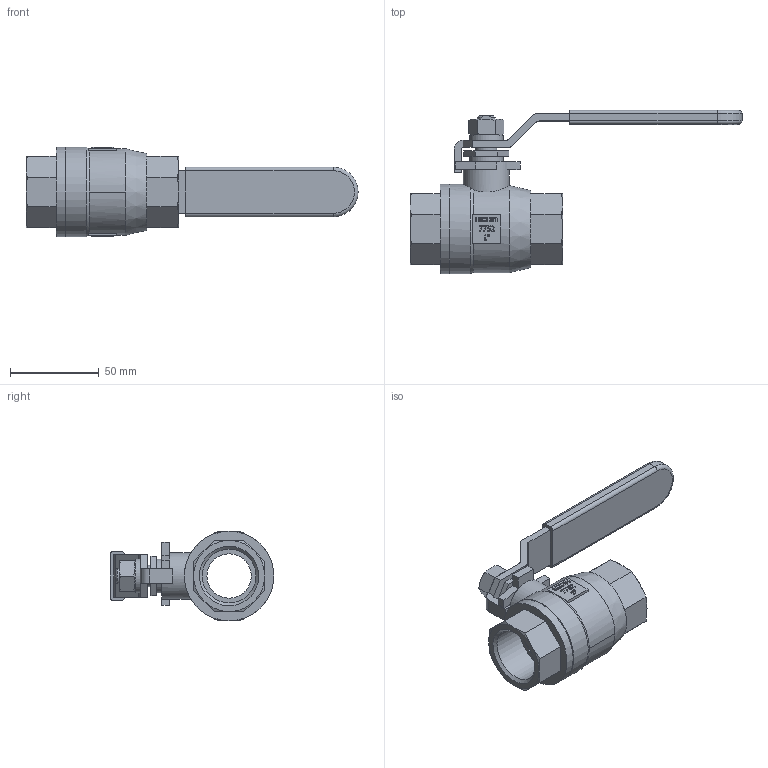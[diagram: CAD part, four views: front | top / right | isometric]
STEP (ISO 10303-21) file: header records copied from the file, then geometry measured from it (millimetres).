
FILE_DESCRIPTION(/* description */ ('Eriks item no: 12427453'),/* implementation_level */ '2;1');
FILE_NAME(/* name */ '7752-DN25-FB-1000PSI-BSPP.stp',/* time_stamp */ '2024-02-16T16:34:04+01:00',/* author */ ('roger.thijssen'),/* organization */ (''),/* preprocessor_version */ 'ST-DEVELOPER v19.2',/* originating_system */ 'Autodesk Inventor 2024',/* authorisation */ '');
FILE_SCHEMA (('AUTOMOTIVE_DESIGN { 1 0 10303 214 3 1 1 }'));
Length unit declared in the file: millimetre
Products named in the file (1): Ball valve, 7752-DN25-FB-1000PSI-BSPP
Bounding box: 187 x 92.2 x 50.5 mm (x, y, z)
Volume: 132184.1 mm3; surface area: 36545.2 mm2
Topology: 1 solids, 1 shells, 1083 faces, 2961 edges, 1957 vertices
Faces by surface type: plane 886, bspline 89, cylinder 70, cone 36, torus 2
Full cylindrical faces by diameter (mm): 8 x1, 12 x1, 19 x2, 25 x1, 26 x1, 30.291 x2, 50.4 x2
Entity records: 35682 total; most frequent: CARTESIAN_POINT 7682, ORIENTED_EDGE 5922, DIRECTION 4891, EDGE_CURVE 2961, LINE 2525, VECTOR 2525, VERTEX_POINT 1957, AXIS2_PLACEMENT_3D 1183
